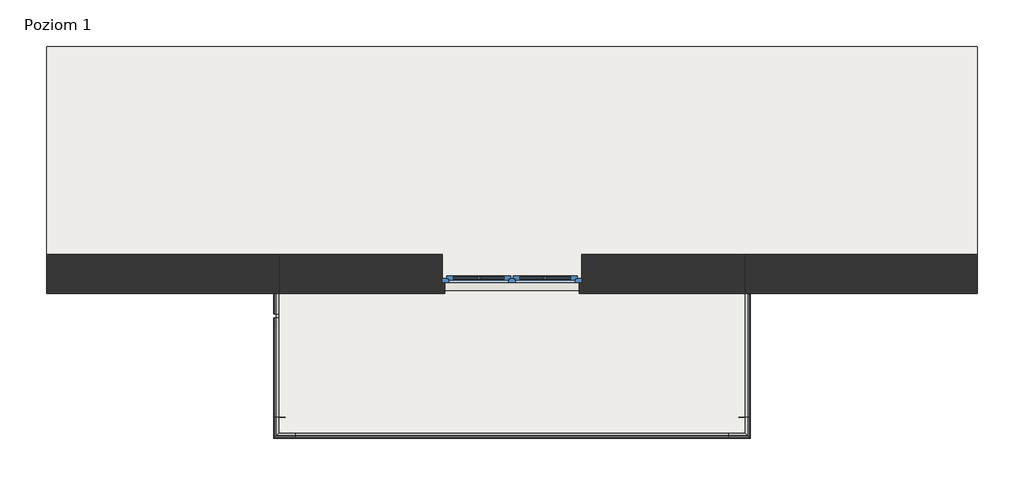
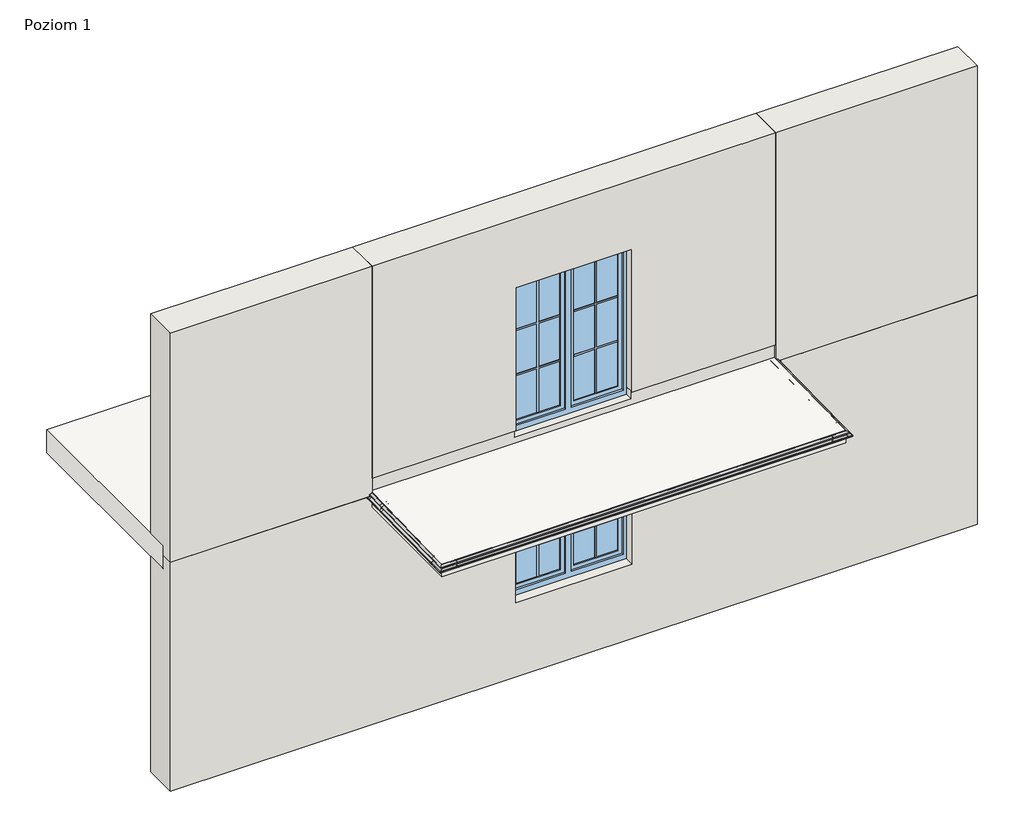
# One storey, part 1 of 3: 12 proxies, 5 walls, 2 slabs, 2 windows.
"""IFC4 building model written with IfcOpenShell, lengths in millimetres."""

from ifc_helpers import new_model, si_unit, origin, place, context, project, spatial, faceted_brep, transform, mapped, element, save
from components import generic_models_8ea34007, generic_models_704fdf56, k10r_492979a8, k10r_da394ea9, k10r_c50524b0, k10r_1e52ed06, k10r_7b48664a, opk10r_62074a0a, rynna_alu_r50_rynna_alu_r50_996ab828, rynna_alu_r50_rynna_alu_r50_a3cc24d8, rynna_alu_r50_rynna_alu_r50_e622e73a, rynna_alu_r50_rynna_alu_r50_1eff210a, window_150x150_51b7f79a, window_150x200_12b14935

model = new_model("IFC4")

# Units and contexts
model_context = context("Model", 3, world=origin())
ifc_project = project(units=[si_unit("LENGTHUNIT", "METRE", prefix="MILLI")], contexts=[model_context])

# Site, building, storey
site = spatial("IfcSite", under=ifc_project)
building = spatial("IfcBuilding", under=site)
storey = spatial("IfcBuildingStorey", under=building, Name="Poziom 1", Elevation=0.0)

# Proxies
placement = place(None, origin())
generic_models_shape = generic_models_8ea34007(model_context)
element("IfcBuildingElementProxy", 1, Name="Odbojnik przyścienny R50 : Odbojnik przyścienny R50", ObjectType="Odbojnik przyścienny R50 : Odbojnik przyścienny R50", at=placement, inside=storey, context=model_context, shape_type="MappedRepresentation", body=[
    mapped(generic_models_shape, transform((-103870.2075096, 32769.4313639, -134.1880403), x_axis=(0.0, 0.9998020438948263, 0.019896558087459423), y_axis=(-1.0, 0.0, 0.0), z_axis=(0.0, -0.01989655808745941, 0.9998020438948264))),
])
generic_models_2_shape = generic_models_704fdf56(model_context)
element("IfcBuildingElementProxy", 2, Name="Odbojnik przyścienny R50 : Odbojnik przyścienny R50", ObjectType="Odbojnik przyścienny R50 : Odbojnik przyścienny R50", at=placement, inside=storey, context=model_context, shape_type="MappedRepresentation", body=[
    mapped(generic_models_2_shape, transform((-108992.861007, 32770.294455, -134.1708644), x_axis=(0.00048252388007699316, 0.9998019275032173, 0.01989655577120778), y_axis=(-0.9999998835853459, 0.0004824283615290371, 9.600564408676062e-06), z_axis=(0.0, -0.019896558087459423, 0.9998020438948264))),
])
k10r_shape = k10r_492979a8(model_context)
element("IfcBuildingElementProxy", 3, Name="K10R Profil okapowy prosty z rynną : K10R", ObjectType="K10R Profil okapowy prosty z rynną : K10R", at=placement, inside=storey, context=model_context, shape_type="MappedRepresentation", body=[
    mapped(k10r_shape, transform((-108931.5881172, 31269.5724217, -114.0), x_axis=(1.0, 0.0, 0.0), y_axis=(0.0, 0.9998020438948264, 0.01989655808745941), z_axis=(0.0, -0.01989655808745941, 0.9998020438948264))),
])
k10r_2_shape = k10r_da394ea9(model_context)
element("IfcBuildingElementProxy", 4, Name="K10R Profil okapowy prosty z rynną : K10R", ObjectType="K10R Profil okapowy prosty z rynną : K10R", at=placement, inside=storey, context=model_context, shape_type="MappedRepresentation", body=[
    mapped(k10r_2_shape, transform((-103931.5881172, 31439.5387692, -110.6175851), x_axis=(0.0, 0.9998020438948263, 0.019896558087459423), y_axis=(-1.0, 0.0, 0.0), z_axis=(0.0, -0.01989655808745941, 0.9998020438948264))),
])
k10r_3_shape = k10r_c50524b0(model_context)
element("IfcBuildingElementProxy", 5, Name="K10R Profil okapowy prosty z rynną : K10R", ObjectType="K10R Profil okapowy prosty z rynną : K10R", at=placement, inside=storey, context=model_context, shape_type="MappedRepresentation", body=[
    mapped(k10r_3_shape, transform((-108931.4777152, 31439.5387334, -110.6175858), x_axis=(-0.00010365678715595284, 0.999802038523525, 0.01989655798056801), y_axis=(-0.9999999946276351, -0.00010363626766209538, -2.0624132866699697e-06), z_axis=(0.0, -0.01989655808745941, 0.9998020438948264))),
])
k10r_4_shape = k10r_1e52ed06(model_context)
element("IfcBuildingElementProxy", 6, Name="K10R Profil okapowy prosty z rynną : K10R", ObjectType="K10R Profil okapowy prosty z rynną : K10R", at=placement, inside=storey, context=model_context, shape_type="MappedRepresentation", body=[
    mapped(k10r_4_shape, transform((-108931.5879824, 32546.3696004, -88.5911009), x_axis=(0.00048252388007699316, 0.9998019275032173, 0.01989655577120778), y_axis=(-0.9999998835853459, 0.0004824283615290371, 9.600564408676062e-06), z_axis=(0.0, -0.019896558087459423, 0.9998020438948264))),
])
k10r_5_shape = k10r_7b48664a(model_context)
element("IfcBuildingElementProxy", 7, Name="K10R Profil okapowy prosty z rynną : K10R", ObjectType="K10R Profil okapowy prosty z rynną : K10R", at=placement, inside=storey, context=model_context, shape_type="MappedRepresentation", body=[
    mapped(k10r_5_shape, transform((-108931.5881172, 32504.4004361, -89.4263082), x_axis=(0.0, 0.9998020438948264, 0.0198965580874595), y_axis=(-1.0, 0.0, 0.0), z_axis=(0.0, -0.019896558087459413, 0.9998020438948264))),
])
opk10r_shape = opk10r_62074a0a(model_context)
element("IfcBuildingElementProxy", 8, Name="Odbojnik - OPK10R : OPK10R", ObjectType="Odbojnik - OPK10R : OPK10R", at=placement, inside=storey, context=model_context, shape_type="MappedRepresentation", body=[
    mapped(opk10r_shape, transform((-108989.3013749, 32766.6069851, -150.001651), x_axis=(-0.00048252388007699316, -0.9998019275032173, -0.01989655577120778), y_axis=(0.9999998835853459, -0.0004824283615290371, -9.600564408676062e-06), z_axis=(0.0, -0.019896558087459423, 0.9998020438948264))),
])
rynna_alu_r50_rynna_alu_r50_shape = rynna_alu_r50_rynna_alu_r50_996ab828(model_context)
element("IfcBuildingElementProxy", 9, Name="Rynna ALU R50 : Rynna ALU R50", ObjectType="Rynna ALU R50 : Rynna ALU R50", at=placement, inside=storey, context=model_context, shape_type="MappedRepresentation", body=[
    mapped(rynna_alu_r50_rynna_alu_r50_shape, transform((-108937.3307546, 31972.0964412, -106.4266909), x_axis=(-0.00010365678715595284, 0.999802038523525, 0.01989655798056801), y_axis=(-0.9999999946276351, -0.00010363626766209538, -2.0624132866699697e-06), z_axis=(0.0, -0.01989655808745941, 0.9998020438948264))),
])
rynna_alu_r50_rynna_alu_r50_2_shape = rynna_alu_r50_rynna_alu_r50_a3cc24d8(model_context)
element("IfcBuildingElementProxy", 10, Name="Rynna ALU R50 : Rynna ALU R50", ObjectType="Rynna ALU R50 : Rynna ALU R50", at=placement, inside=storey, context=model_context, shape_type="MappedRepresentation", body=[
    mapped(rynna_alu_r50_rynna_alu_r50_2_shape, transform((-108937.3323217, 32657.3499217, -92.7898057), x_axis=(0.00048252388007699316, 0.9998019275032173, 0.01989655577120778), y_axis=(-0.9999998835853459, 0.0004824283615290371, 9.600564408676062e-06), z_axis=(0.0, -0.019896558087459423, 0.9998020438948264))),
])
rynna_alu_r50_rynna_alu_r50_3_shape = rynna_alu_r50_rynna_alu_r50_e622e73a(model_context)
element("IfcBuildingElementProxy", 11, Name="Rynna ALU R50 : Rynna ALU R50", ObjectType="Rynna ALU R50 : Rynna ALU R50", at=placement, inside=storey, context=model_context, shape_type="MappedRepresentation", body=[
    mapped(rynna_alu_r50_rynna_alu_r50_3_shape, transform((-106431.5881172, 31263.9031884, -120.5200889), x_axis=(1.0, 0.0, 0.0), y_axis=(0.0, 0.9998020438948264, 0.01989655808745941), z_axis=(0.0, -0.01989655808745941, 0.9998020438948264))),
])
rynna_alu_r50_rynna_alu_r50_4_shape = rynna_alu_r50_rynna_alu_r50_1eff210a(model_context)
element("IfcBuildingElementProxy", 12, Name="Rynna ALU R50 : Rynna ALU R50", ObjectType="Rynna ALU R50 : Rynna ALU R50", at=placement, inside=storey, context=model_context, shape_type="MappedRepresentation", body=[
    mapped(rynna_alu_r50_rynna_alu_r50_4_shape, transform((-103925.7902788, 32103.5149694, -103.8113968), x_axis=(0.0, 0.9998020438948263, 0.019896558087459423), y_axis=(-1.0, 0.0, 0.0), z_axis=(0.0, -0.01989655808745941, 0.9998020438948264))),
])

# Slabs
element("IfcSlab", 13, ObjectType="Balkon - posadzka żywiczna cienkowarstwowa", at=placement, inside=storey, context=model_context, shape_type="Brep", body=[
    faceted_brep([(-108931.5881172, 31269.5724217, -277.2), (-108931.5881172, 32769.5724217, -277.2), (-108931.5881172, 32877.5724217, -277.2), (-103931.5881172, 32877.5724217, -277.2), (-103931.5881172, 32769.5724217, -277.2), (-103931.5881172, 31269.5724217, -277.2), (-108931.5881172, 31269.5724217, -114.0), (-108931.5881172, 32799.5724217, -83.5522388), (-108931.5881172, 32877.5724217, -82.0), (-108931.5881172, 32877.5724217, -125.0), (-103931.5881172, 32877.5724217, -82.0), (-103931.5881172, 32877.5724217, -125.0), (-103931.5881172, 31269.5724217, -114.0), (-103931.5881172, 32799.5724217, -83.5522388)], [[[0, 1, 2, 3, 4, 5]], [[2, 1, 0, 6, 7, 8, 9]], [[3, 2, 9, 8, 10, 11]], [[0, 5, 12, 6]], [[5, 4, 3, 11, 10, 13, 12]], [[12, 13, 10, 8, 7, 6]]]),
])
element("IfcSlab", 14, ObjectType="Strop", at=placement, inside=storey, context=model_context, shape_type="Brep", body=[
    faceted_brep([(-101431.5881172, 32924.5724217, -300.0), (-111431.5881172, 32924.5724217, -300.0), (-111431.5881172, 33189.5724217, -300.0), (-111431.5881172, 35424.5724217, -300.0), (-101431.5881172, 35424.5724217, -300.0), (-101431.5881172, 33189.5724217, -300.0), (-101431.5881172, 32924.5724217, 0.0), (-101431.5881172, 33189.5724217, 0.0), (-101431.5881172, 35424.5724217, 0.0), (-111431.5881172, 35424.5724217, 0.0), (-111431.5881172, 33189.5724217, 0.0), (-111431.5881172, 32924.5724217, 0.0), (-108931.5881172, 32924.5724217, 0.0), (-107181.5881172, 32924.5724217, 0.0), (-105681.5881172, 32924.5724217, 0.0), (-103931.5881172, 32924.5724217, 0.0), (-101431.5881172, 32924.5724217, -125.0), (-111431.5881172, 32924.5724217, -125.0)], [[[0, 1, 2, 3, 4, 5]], [[6, 7, 8, 9, 10, 11, 12, 13, 14, 15]], [[1, 0, 16, 6, 15, 14, 13, 12, 11, 17]], [[3, 2, 1, 17, 11, 10, 9]], [[4, 3, 9, 8]], [[0, 5, 4, 8, 7, 6, 16]]]),
])

# Walls
element("IfcWall", 15, ObjectType="Porotherm P+W 25 + o15 + t", at=placement, inside=storey, context=model_context, shape_type="Brep", body=[
    faceted_brep([(-111431.5881172, 32769.5724217, -3125.0), (-101431.5881172, 32769.5724217, -3125.0), (-101431.5881172, 32769.5724217, -125.0), (-103931.5881172, 32769.5724217, -125.0), (-103931.5881172, 32769.5724217, -277.2), (-108931.5881172, 32769.5724217, -277.2), (-108931.5881172, 32769.5724217, -125.0), (-111431.5881172, 32769.5724217, -125.0), (-105711.5881172, 32769.5724217, -680.0), (-105711.5881172, 32769.5724217, -2150.0), (-107151.5881172, 32769.5724217, -2150.0), (-107151.5881172, 32769.5724217, -680.0), (-101431.5881172, 33189.5724217, -3125.0), (-111431.5881172, 33189.5724217, -3125.0), (-111431.5881172, 33189.5724217, -300.0), (-101431.5881172, 33189.5724217, -300.0), (-105681.5881172, 33189.5724217, -2150.0), (-105681.5881172, 33189.5724217, -650.0), (-107181.5881172, 33189.5724217, -650.0), (-107181.5881172, 33189.5724217, -2150.0), (-101431.5881172, 32924.5724217, -300.0), (-101431.5881172, 32924.5724217, -125.0), (-103931.5881172, 32924.5724217, -125.0), (-108931.5881172, 32924.5724217, -125.0), (-111431.5881172, 32924.5724217, -125.0), (-108931.5881172, 32877.5724217, -125.0), (-103931.5881172, 32877.5724217, -125.0), (-111431.5881172, 32924.5724217, -300.0), (-105681.5881172, 32889.5724217, -650.0), (-105681.5881172, 32889.5724217, -2150.0), (-105711.5881172, 32889.5724217, -680.0), (-105711.5881172, 32889.5724217, -2150.0), (-103931.5881172, 32877.5724217, -277.2), (-108931.5881172, 32877.5724217, -277.2), (-107181.5881172, 32889.5724217, -650.0), (-107181.5881172, 32889.5724217, -2150.0), (-107151.5881172, 32889.5724217, -2150.0), (-107151.5881172, 32889.5724217, -680.0)], [[[0, 1, 2, 3, 4, 5, 6, 7], [8, 9, 10, 11]], [[12, 13, 14, 15], [16, 17, 18, 19]], [[1, 0, 13, 12]], [[2, 1, 12, 15, 20, 21]], [[2, 21, 22, 23, 24, 7, 6, 25, 26, 3]], [[0, 7, 24, 27, 14, 13]], [[28, 17, 16, 29]], [[8, 30, 31, 9]], [[27, 20, 15, 14]], [[20, 27, 24, 23, 22, 21]], [[32, 33, 5, 4]], [[5, 33, 25, 6]], [[33, 32, 26, 25]], [[32, 4, 3, 26]], [[17, 28, 34, 18]], [[29, 16, 19, 35, 36, 10, 9, 31]], [[34, 28, 29, 31, 30, 37, 36, 35]], [[34, 35, 19, 18]], [[30, 8, 11, 37]], [[10, 36, 37, 11]]]),
])
element("IfcWall", 16, ObjectType="Porotherm P+W 25 + o15 + t", at=placement, inside=storey, context=model_context, shape_type="Brep", body=[
    faceted_brep([(-111431.5881172, 32769.5724217, -125.0), (-108931.5881172, 32769.5724217, -125.0), (-108931.5881172, 32769.5724217, 100.0), (-108931.5881172, 32769.5724217, 2875.0), (-111431.5881172, 32769.5724217, 2875.0), (-111431.5881172, 33189.5724217, 2875.0), (-108931.5881172, 33189.5724217, 2875.0), (-108931.5881172, 33189.5724217, 100.0), (-108931.5881172, 33189.5724217, 0.0), (-111431.5881172, 33189.5724217, 0.0), (-111431.5881172, 32924.5724217, -125.0), (-108931.5881172, 32924.5724217, -125.0), (-108931.5881172, 32877.5724217, -125.0), (-111431.5881172, 32924.5724217, 0.0), (-108931.5881172, 32924.5724217, 0.0)], [[[0, 1, 2, 3, 4]], [[5, 6, 7, 8, 9]], [[1, 0, 10, 11, 12]], [[4, 3, 6, 5]], [[0, 4, 5, 9, 13, 10]], [[14, 13, 9, 8]], [[13, 14, 11, 10]], [[6, 3, 2, 1, 12, 11, 14, 8, 7]]]),
])
element("IfcWall", 17, ObjectType="Porotherm P+W 25 + o15 + t", at=placement, inside=storey, context=model_context, shape_type="Brep", body=[
    faceted_brep([(-103931.5881172, 32769.5724217, -125.0), (-101431.5881172, 32769.5724217, -125.0), (-101431.5881172, 32769.5724217, 2875.0), (-103931.5881172, 32769.5724217, 2875.0), (-103931.5881172, 32769.5724217, 100.0), (-103931.5881172, 33189.5724217, 2875.0), (-101431.5881172, 33189.5724217, 2875.0), (-101431.5881172, 33189.5724217, 0.0), (-103931.5881172, 33189.5724217, 0.0), (-103931.5881172, 33189.5724217, 100.0), (-103931.5881172, 32877.5724217, -125.0), (-103931.5881172, 32924.5724217, -125.0), (-101431.5881172, 32924.5724217, -125.0), (-101431.5881172, 32924.5724217, 0.0), (-103931.5881172, 32924.5724217, 0.0)], [[[0, 1, 2, 3, 4]], [[5, 6, 7, 8, 9]], [[1, 0, 10, 11, 12]], [[2, 1, 12, 13, 7, 6]], [[3, 2, 6, 5]], [[13, 14, 8, 7]], [[14, 13, 12, 11]], [[3, 5, 9, 8, 14, 11, 10, 0, 4]]]),
])
element("IfcWall", 18, ObjectType="Porotherm P+W 25 + o12 + t", at=placement, inside=storey, context=model_context, shape_type="Brep", body=[
    faceted_brep([(-103931.5881172, 32799.5724217, -83.5522388), (-103931.5881172, 32799.5724217, 100.0), (-105711.5881172, 32799.5724217, 100.0), (-105711.5881172, 32799.5724217, 0.0), (-107151.5881172, 32799.5724217, 0.0), (-107151.5881172, 32799.5724217, 100.0), (-108931.5881172, 32799.5724217, 100.0), (-108931.5881172, 32799.5724217, -83.5522388), (-105681.5881172, 33189.5724217, 100.0), (-103931.5881172, 33189.5724217, 100.0), (-103931.5881172, 33189.5724217, 0.0), (-105681.5881172, 33189.5724217, 0.0), (-108931.5881172, 33189.5724217, 100.0), (-107181.5881172, 33189.5724217, 100.0), (-107181.5881172, 33189.5724217, 0.0), (-108931.5881172, 33189.5724217, 0.0), (-103931.5881172, 32877.5724217, -125.0), (-108931.5881172, 32877.5724217, -125.0), (-108931.5881172, 32924.5724217, -125.0), (-103931.5881172, 32924.5724217, -125.0), (-103931.5881172, 32877.5724217, -82.0), (-103931.5881172, 32924.5724217, 0.0), (-105681.5881172, 32889.5724217, 100.0), (-105711.5881172, 32889.5724217, 100.0), (-107151.5881172, 32889.5724217, 100.0), (-107181.5881172, 32889.5724217, 100.0), (-108931.5881172, 32924.5724217, 0.0), (-108931.5881172, 32877.5724217, -82.0), (-105681.5881172, 32924.5724217, 0.0), (-107181.5881172, 32924.5724217, 0.0), (-107181.5881172, 32889.5724217, 0.0), (-107151.5881172, 32889.5724217, 0.0), (-105711.5881172, 32889.5724217, 0.0), (-105681.5881172, 32889.5724217, 0.0)], [[[0, 1, 2, 3, 4, 5, 6, 7]], [[8, 9, 10, 11]], [[12, 13, 14, 15]], [[16, 17, 18, 19]], [[9, 1, 0, 20, 16, 19, 21, 10]], [[1, 9, 8, 22, 23, 2]], [[12, 6, 5, 24, 25, 13]], [[6, 12, 15, 26, 18, 17, 27, 7]], [[20, 27, 17, 16]], [[27, 20, 0, 7]], [[21, 28, 11, 10]], [[29, 26, 15, 14]], [[28, 21, 19, 18, 26, 29]], [[30, 31, 4, 3, 32, 33, 28, 29]], [[31, 30, 25, 24]], [[33, 32, 23, 22]], [[33, 22, 8, 11, 28]], [[25, 30, 29, 14, 13]], [[32, 3, 2, 23]], [[4, 31, 24, 5]]]),
])
element("IfcWall", 19, ObjectType="Porotherm P+W 25 + o15 + t", at=placement, inside=storey, context=model_context, shape_type="Brep", body=[
    faceted_brep([(-103931.5881172, 32769.5724217, 100.0), (-103931.5881172, 32769.5724217, 2875.0), (-108931.5881172, 32769.5724217, 2875.0), (-108931.5881172, 32769.5724217, 100.0), (-107151.5881172, 32769.5724217, 100.0), (-107151.5881172, 32769.5724217, 1970.0), (-105711.5881172, 32769.5724217, 1970.0), (-105711.5881172, 32769.5724217, 100.0), (-103931.5881172, 33189.5724217, 2875.0), (-103931.5881172, 33189.5724217, 100.0), (-105681.5881172, 33189.5724217, 100.0), (-105681.5881172, 33189.5724217, 2000.0), (-107181.5881172, 33189.5724217, 2000.0), (-107181.5881172, 33189.5724217, 100.0), (-108931.5881172, 33189.5724217, 100.0), (-108931.5881172, 33189.5724217, 2875.0), (-108931.5881172, 32799.5724217, 100.0), (-107181.5881172, 32889.5724217, 100.0), (-107151.5881172, 32889.5724217, 100.0), (-107151.5881172, 32799.5724217, 100.0), (-103931.5881172, 32799.5724217, 100.0), (-105711.5881172, 32799.5724217, 100.0), (-105711.5881172, 32889.5724217, 100.0), (-105681.5881172, 32889.5724217, 100.0), (-105681.5881172, 32889.5724217, 2000.0), (-105711.5881172, 32889.5724217, 1970.0), (-107181.5881172, 32889.5724217, 2000.0), (-107151.5881172, 32889.5724217, 1970.0)], [[[0, 1, 2, 3, 4, 5, 6, 7]], [[8, 9, 10, 11, 12, 13, 14, 15]], [[3, 16, 14, 13, 17, 18, 19, 4]], [[9, 20, 0, 7, 21, 22, 23, 10]], [[1, 0, 20, 9, 8]], [[2, 1, 8, 15]], [[3, 2, 15, 14, 16]], [[24, 11, 10, 23]], [[6, 25, 22, 21, 7]], [[26, 12, 11, 24]], [[26, 24, 23, 22, 25, 27, 18, 17]], [[12, 26, 17, 13]], [[27, 25, 6, 5]], [[27, 5, 4, 19, 18]]]),
])

# Windows
window_150x150_shape = window_150x150_51b7f79a(model_context)
element("IfcWindow", 20, ObjectType="OKNO_2X_W_SZ : 150x150", at=placement, inside=storey, context=model_context, shape_type="MappedRepresentation", body=[
    mapped(window_150x150_shape, transform((-106431.5881172, 32979.5724217, -3000.0), x_axis=(-1.0, 0.0, 0.0), y_axis=(0.0, -1.0, 0.0), z_axis=(0.0, 0.0, 1.0))),
])
window_150x200_shape = window_150x200_12b14935(model_context)
element("IfcWindow", 21, ObjectType="OKNO_2X_W_SZ : 150x200", at=placement, inside=storey, context=model_context, shape_type="MappedRepresentation", body=[
    mapped(window_150x200_shape, transform((-106431.5881172, 32979.5724217, -850.0), x_axis=(-1.0, 0.0, 0.0), y_axis=(0.0, -1.0, 0.0), z_axis=(0.0, 0.0, 1.0))),
])

save(model, "model.ifc")
